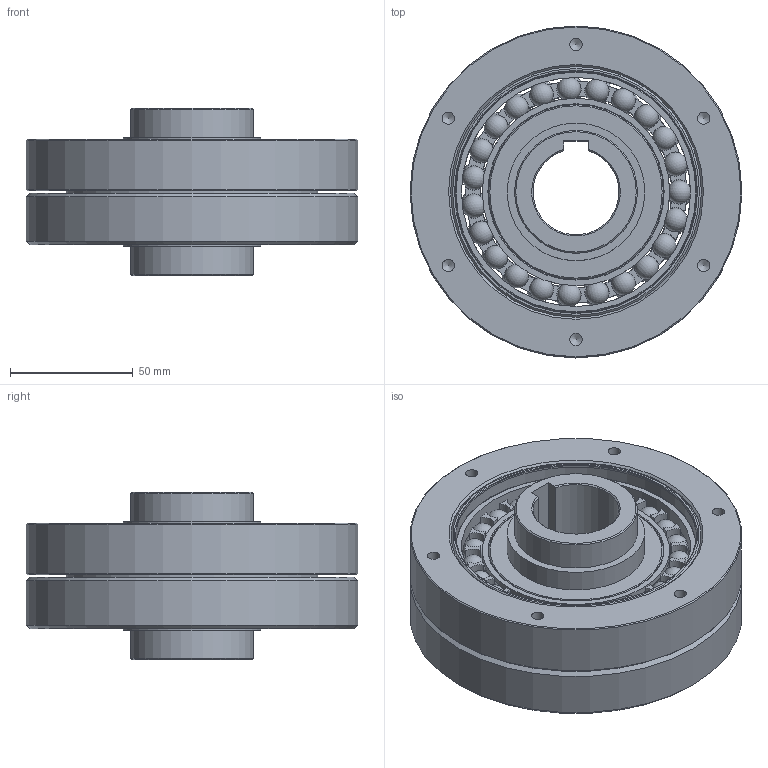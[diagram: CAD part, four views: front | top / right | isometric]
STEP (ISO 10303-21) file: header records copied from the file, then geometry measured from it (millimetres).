
FILE_DESCRIPTION (( 'STEP AP203' ), '1' );
FILE_NAME ('FDS-40-XXX-CJ.STEP', '2024-11-15T01:33:22', ( '微软用户' ), ( '微软中国' ), 'SwSTEP 2.0', 'SolidWorks 2016', '' );
FILE_SCHEMA (( 'CONFIG_CONTROL_DESIGN' ));
Length unit declared in the file: millimetre
Products named in the file (1): FDS-40-XXX-CJ
Bounding box: 135 x 135 x 68 mm (x, y, z)
Volume: 473174.3 mm3; surface area: 174332.8 mm2
Topology: 56 solids, 56 shells, 339 faces, 916 edges, 599 vertices
Faces by surface type: cylinder 132, plane 117, sphere 46, cone 30, torus 14
Full cylindrical faces by diameter (mm): 5 x12, 50 x2, 56 x2, 71.12 x3, 76.25 x4, 78 x2, 90 x2, 93.22 x4, 98.171 x3, 102.046 x2, 102.416 x1, 135 x2
Entity records: 9147 total; most frequent: DIRECTION 1818, CARTESIAN_POINT 1502, ORIENTED_EDGE 1340, AXIS2_PLACEMENT_3D 812, EDGE_CURVE 670, VERTEX_POINT 480, CIRCLE 472, EDGE_LOOP 396
